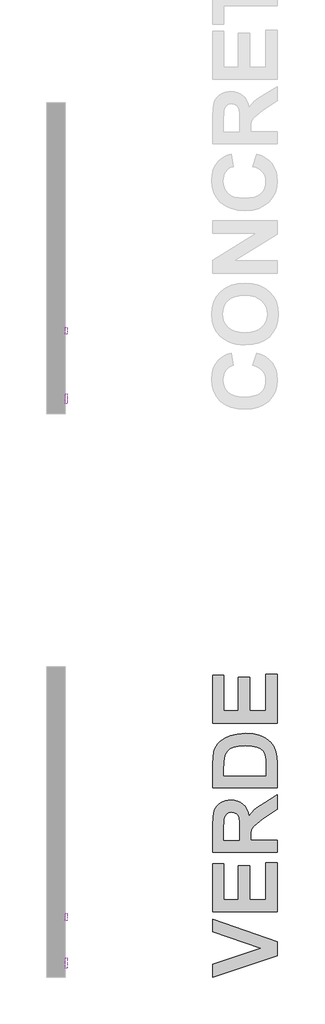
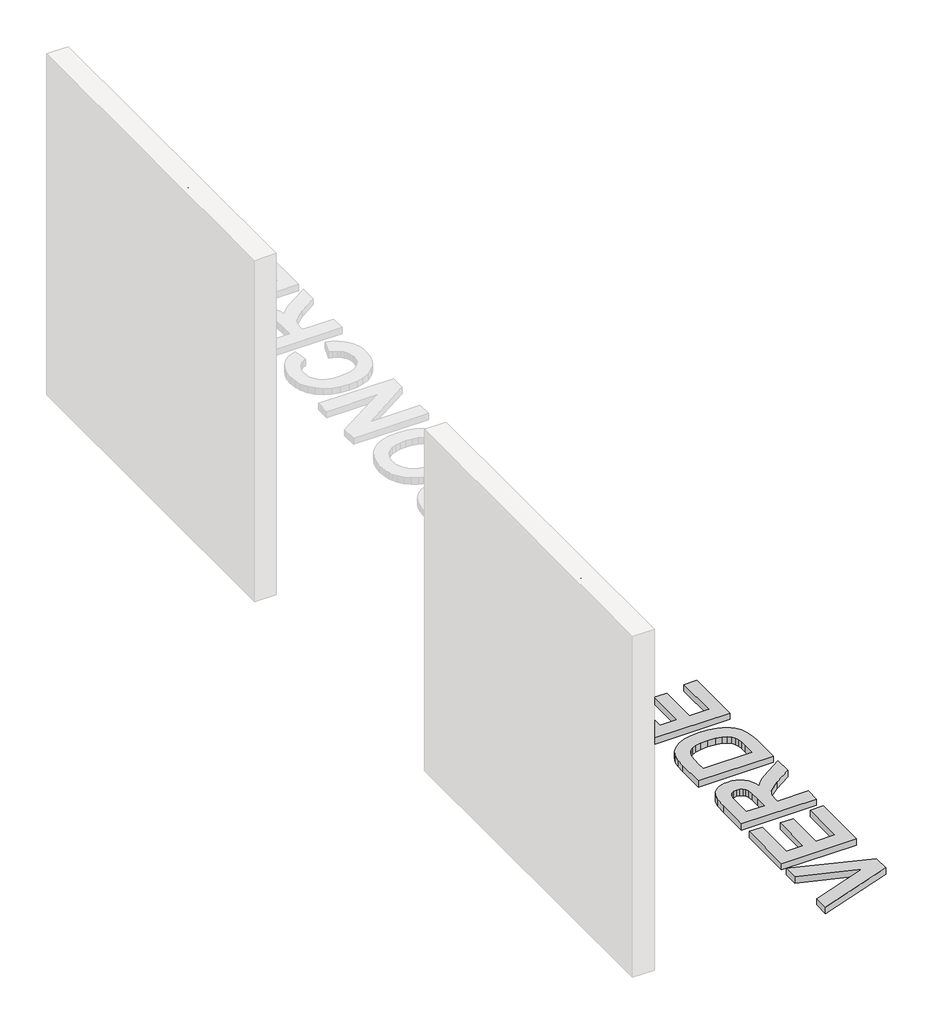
# One storey, part 4 of 6: 5 proxies.
"""IFC4 building model written with IfcOpenShell, lengths in millimetres."""

from ifc_helpers import new_model, si_unit, frame, origin, origin_with_axes, place, context, project, spatial, polyline, outline, extrude, element, save

model = new_model("IFC4")

# Units and contexts
model_context = context("Model", 3, world=origin())
ifc_project = project(units=[si_unit("LENGTHUNIT", "METRE", prefix="MILLI")], contexts=[model_context])

# Site, building, storey
site = spatial("IfcSite", under=ifc_project)
building = spatial("IfcBuilding", under=site)
storey = spatial("IfcBuildingStorey", under=building, Name="PORTOBELLO - SHOWROOM", Elevation=0.0)

# Proxies
placement = place(None, origin())
element("IfcBuildingElementProxy", 1, Name="10mm Arial", ObjectType="10mm Arial", at=placement, inside=storey, context=model_context, shape_type="SweptSolid", body=[
    extrude(outline(polyline([(621.7332889, 2518.4745677), (581.7567788, 2618.9308778), (595.1967343, 2618.9308778), (621.9540181, 2546.5562266), (627.3741462, 2530.2467915), (632.7206978, 2546.5562266), (659.551558, 2618.9308778), (672.9915136, 2618.9308778), (634.7072606, 2518.4745677), (621.7332889, 2518.4745677)])), frame((-21726.2609603, 0.0, 0.0), z_axis=(1.0, 0.0, 0.0), x_axis=(0.0, 1.0, 0.0)), (0.0, 0.0, 1.0), 20.0),
    extrude(outline(polyline([(734.7466378, 2540.4493855), (747.0584219, 2538.8797557), (742.6223782, 2529.602998), (735.5437155, 2522.6684224), (725.9818493, 2518.345809), (714.0961952, 2516.9049378), (699.3625213, 2519.391207), (688.0256244, 2526.8500144), (680.7967432, 2538.7969822), (678.3871162, 2554.7477324), (680.8212687, 2571.2349771), (688.1237263, 2583.5651553), (699.307339, 2591.253889), (713.3849566, 2593.8168003), (727.0241816, 2591.2600204), (737.9226857, 2583.5896808), (745.0687935, 2571.2840281), (747.4508294, 2554.8213088), (747.377253, 2551.4367944), (690.9441549, 2551.4367944), (693.1177244, 2542.0374095), (698.1669048, 2535.1273593), (705.454034, 2530.8783223), (714.3414498, 2529.4619766), (726.6532339, 2532.0862015), (734.7466378, 2540.4493855)]), holes=[polyline([(690.9441549, 2563.9938332), (734.8937906, 2563.9938332), (729.86607, 2575.3736496), (722.5452183, 2579.7882335), (713.3359057, 2581.2597615), (697.8725992, 2576.5631347), (693.0073598, 2571.0724959), (690.9441549, 2563.9938332)])]), frame((-21726.2609603, 0.0, 0.0), z_axis=(1.0, 0.0, 0.0), x_axis=(0.0, 1.0, 0.0)), (0.0, 0.0, 1.0), 20.0),
    extrude(outline(polyline([(760.0078682, 2518.4745677), (760.0078682, 2592.2471704), (770.9952771, 2592.2471704), (770.9952771, 2581.3333379), (778.7943754, 2591.3887791), (786.6425246, 2593.8168003), (799.2486143, 2589.9417766), (795.0547596, 2578.6845875), (786.2255917, 2581.2597615), (779.1254692, 2578.7826894), (774.6005206, 2571.9155588), (772.5649069, 2557.24933), (772.5649069, 2518.4745677), (760.0078682, 2518.4745677)])), frame((-21726.2609603, 0.0, 0.0), z_axis=(1.0, 0.0, 0.0), x_axis=(0.0, 1.0, 0.0)), (0.0, 0.0, 1.0), 20.0),
    extrude(outline(polyline([(852.6160291, 2518.4745677), (852.6160291, 2530.3203679), (844.3080274, 2520.2587953), (832.8239777, 2516.9049378), (817.2748321, 2521.7609802), (806.2874232, 2535.3113003), (802.387874, 2555.2872926), (805.9808548, 2575.2755477), (816.7475346, 2589.0343343), (832.7749268, 2593.8168003), (844.3509469, 2590.3954977), (852.6160291, 2581.5050162), (852.6160291, 2618.9308778), (865.1730679, 2618.9308778), (865.1730679, 2518.4745677), (852.6160291, 2518.4745677)]), holes=[polyline([(814.9449128, 2555.3363436), (816.3612585, 2543.977987), (820.6102955, 2535.8999115), (826.7845817, 2531.0714603), (833.9766747, 2529.4619766), (841.165702, 2530.9978839), (847.1836383, 2535.6056059), (851.2579314, 2543.3709817), (852.6160291, 2554.3798504), (851.2334059, 2566.415723), (847.0855364, 2574.7605129), (840.914316, 2579.6349494), (833.4616399, 2581.2597615), (826.1959705, 2579.6993287), (820.2424135, 2575.0180303), (816.269288, 2566.976743), (814.9449128, 2555.3363436)])]), frame((-21726.2609603, 0.0, 0.0), z_axis=(1.0, 0.0, 0.0), x_axis=(0.0, 1.0, 0.0)), (0.0, 0.0, 1.0), 20.0),
    extrude(outline(polyline([(935.6592581, 2540.4493855), (947.9710422, 2538.8797557), (943.5349985, 2529.602998), (936.4563358, 2522.6684224), (926.8944696, 2518.345809), (915.0088155, 2516.9049378), (900.2751416, 2519.391207), (888.9382447, 2526.8500144), (881.7093635, 2538.7969822), (879.2997365, 2554.7477324), (881.733889, 2571.2349771), (889.0363466, 2583.5651553), (900.2199593, 2591.253889), (914.2975769, 2593.8168003), (927.9368019, 2591.2600204), (938.835306, 2583.5896808), (945.9814138, 2571.2840281), (948.3634497, 2554.8213088), (948.2898733, 2551.4367944), (891.8567752, 2551.4367944), (894.0303447, 2542.0374095), (899.0795251, 2535.1273593), (906.3666543, 2530.8783223), (915.2540701, 2529.4619766), (927.5658542, 2532.0862015), (935.6592581, 2540.4493855)]), holes=[polyline([(891.8567752, 2563.9938332), (935.8064109, 2563.9938332), (930.7786903, 2575.3736496), (923.4578386, 2579.7882335), (914.248526, 2581.2597615), (898.7852195, 2576.5631347), (893.9199801, 2571.0724959), (891.8567752, 2563.9938332)])]), frame((-21726.2609603, 0.0, 0.0), z_axis=(1.0, 0.0, 0.0), x_axis=(0.0, 1.0, 0.0)), (0.0, 0.0, 1.0), 20.0),
])
element("IfcBuildingElementProxy", 2, Name="10mm Arial", ObjectType="10mm Arial", at=placement, inside=storey, context=model_context, shape_type="SweptSolid", body=[
    extrude(outline(polyline([(5562.6908177, 2554.1836467), (5575.2478565, 2550.9462851), (5569.4537151, 2536.3137787), (5560.3608984, 2525.6237411), (5548.4169963, 2519.0846386), (5534.0695985, 2516.9049378), (5519.5045372, 2518.5542754), (5507.9377141, 2523.5022883), (5499.071758, 2531.5772981), (5492.6092976, 2542.6076265), (5487.3485851, 2569.4630122), (5488.8354415, 2584.110847), (5493.2960107, 2596.7598562), (5500.4973007, 2607.0084355), (5510.2063197, 2614.4549802), (5521.7210262, 2618.9891258), (5534.3393786, 2620.5005077), (5548.1073623, 2618.5446017), (5559.4902444, 2612.6768839), (5568.1324056, 2603.2591048), (5573.6782266, 2590.6530151), (5561.1211879, 2587.6609082), (5550.820492, 2603.0996893), (5533.8488693, 2607.9434689), (5514.2039707, 2602.5723918), (5503.1061972, 2588.1514175), (5499.9056239, 2569.4875377), (5503.6948084, 2547.8560763), (5515.4915577, 2534.0359761), (5532.8187997, 2529.4619766), (5543.3003709, 2531.0193437), (5552.0345026, 2535.691445), (5558.6287873, 2543.4292297), (5562.6908177, 2554.1836467)])), frame((-21726.2609603, 0.0, 0.0), z_axis=(1.0, 0.0, 0.0), x_axis=(0.0, 1.0, 0.0)), (0.0, 0.0, 1.0), 20.0),
    extrude(outline(polyline([(5587.8048952, 2555.360869), (5590.5210906, 2573.1479635), (5598.6696768, 2585.64982), (5608.7373808, 2591.7750552), (5620.7916475, 2593.8168003), (5633.9832827, 2591.3305311), (5644.5200362, 2583.8717237), (5651.4270206, 2572.0289891), (5653.7293488, 2556.3909386), (5649.6581214, 2534.0482388), (5637.8000584, 2521.4053609), (5620.7916475, 2516.9049378), (5607.4405967, 2519.3820099), (5596.916106, 2526.8132262), (5590.0826979, 2538.9042811), (5587.8048952, 2555.360869)]), holes=[polyline([(5600.361934, 2555.3853945), (5601.8150679, 2544.0209065), (5606.1744695, 2535.924437), (5612.7350318, 2531.0775917), (5620.7916475, 2529.4619766), (5628.811475, 2531.0867887), (5635.3597745, 2535.9612252), (5639.7191761, 2544.1649937), (5641.17231, 2555.777802), (5639.7099791, 2566.8111961), (5635.3229863, 2574.7973011), (5628.7654897, 2579.6441464), (5620.7916475, 2581.2597615), (5612.7350318, 2579.6502778), (5606.1744695, 2574.8218266), (5601.8150679, 2566.7437511), (5600.361934, 2555.3853945)])]), frame((-21726.2609603, 0.0, 0.0), z_axis=(1.0, 0.0, 0.0), x_axis=(0.0, 1.0, 0.0)), (0.0, 0.0, 1.0), 20.0),
    extrude(outline(polyline([(5667.8560174, 2518.4745677), (5667.8560174, 2592.2471704), (5680.4130562, 2592.2471704), (5680.4130562, 2581.9464746), (5690.0147762, 2590.8492188), (5703.123638, 2593.8168003), (5714.981701, 2591.4255673), (5723.0751049, 2585.1470479), (5726.839764, 2575.9132098), (5727.5019515, 2563.773104), (5727.5019515, 2518.4745677), (5714.9449128, 2518.4745677), (5714.9449128, 2562.0808468), (5713.4979103, 2573.1908831), (5708.3843505, 2579.0647323), (5699.7636491, 2581.2597615), (5686.1397526, 2576.3301428), (5681.8447303, 2569.1871007), (5680.4130562, 2557.6172119), (5680.4130562, 2518.4745677), (5667.8560174, 2518.4745677)])), frame((-21726.2609603, 0.0, 0.0), z_axis=(1.0, 0.0, 0.0), x_axis=(0.0, 1.0, 0.0)), (0.0, 0.0, 1.0), 20.0),
    extrude(outline(polyline([(5791.8567752, 2545.158275), (5804.413814, 2543.5886452), (5800.9128037, 2532.420361), (5794.3338473, 2523.9805349), (5785.296213, 2518.6738371), (5774.4191687, 2516.9049378), (5761.0619866, 2519.3728129), (5750.6172036, 2526.776438), (5743.875766, 2538.7908508), (5741.6286202, 2555.0910889), (5745.4668556, 2575.949998), (5757.1655031, 2589.3531654), (5774.2474904, 2593.8168003), (5784.8578203, 2592.2839586), (5793.340566, 2587.6854337), (5799.4259473, 2580.2664801), (5802.8441842, 2570.2723526), (5790.2871454, 2568.7027227), (5784.4623471, 2578.1082391), (5774.3455923, 2581.2597615), (5766.2307286, 2579.7085258), (5759.789728, 2575.0548185), (5755.5866762, 2567.0472538), (5754.1856589, 2555.4344454), (5755.5560194, 2543.6652873), (5759.6671007, 2535.6301314), (5765.9916053, 2531.0040153), (5774.0022357, 2529.4619766), (5785.8357733, 2533.3124748), (5791.8567752, 2545.158275)])), frame((-21726.2609603, 0.0, 0.0), z_axis=(1.0, 0.0, 0.0), x_axis=(0.0, 1.0, 0.0)), (0.0, 0.0, 1.0), 20.0),
    extrude(outline(polyline([(5815.4012229, 2518.4745677), (5815.4012229, 2592.2471704), (5826.3886319, 2592.2471704), (5826.3886319, 2581.3333379), (5834.1877302, 2591.3887791), (5842.0358794, 2593.8168003), (5854.6419691, 2589.9417766), (5850.4481143, 2578.6845875), (5841.6189465, 2581.2597615), (5834.5188239, 2578.7826894), (5829.9938754, 2571.9155588), (5827.9582617, 2557.24933), (5827.9582617, 2518.4745677), (5815.4012229, 2518.4745677)])), frame((-21726.2609603, 0.0, 0.0), z_axis=(1.0, 0.0, 0.0), x_axis=(0.0, 1.0, 0.0)), (0.0, 0.0, 1.0), 20.0),
    extrude(outline(polyline([(5914.1407504, 2540.4493855), (5926.4525345, 2538.8797557), (5922.0164908, 2529.602998), (5914.9378281, 2522.6684224), (5905.3759619, 2518.345809), (5893.4903078, 2516.9049378), (5878.7566339, 2519.391207), (5867.419737, 2526.8500144), (5860.1908558, 2538.7969822), (5857.7812288, 2554.7477324), (5860.2153813, 2571.2349771), (5867.5178389, 2583.5651553), (5878.7014516, 2591.253889), (5892.7790692, 2593.8168003), (5906.4182942, 2591.2600204), (5917.3167983, 2583.5896808), (5924.4629061, 2571.2840281), (5926.844942, 2554.8213088), (5926.7713656, 2551.4367944), (5870.3382675, 2551.4367944), (5872.511837, 2542.0374095), (5877.5610174, 2535.1273593), (5884.8481466, 2530.8783223), (5893.7355624, 2529.4619766), (5906.0473465, 2532.0862015), (5914.1407504, 2540.4493855)]), holes=[polyline([(5870.3382675, 2563.9938332), (5914.2879032, 2563.9938332), (5909.2601826, 2575.3736496), (5901.9393309, 2579.7882335), (5892.7300183, 2581.2597615), (5877.2667118, 2576.5631347), (5872.4014724, 2571.0724959), (5870.3382675, 2563.9938332)])]), frame((-21726.2609603, 0.0, 0.0), z_axis=(1.0, 0.0, 0.0), x_axis=(0.0, 1.0, 0.0)), (0.0, 0.0, 1.0), 20.0),
    extrude(outline(polyline([(5966.0856882, 2528.9469418), (5967.655318, 2518.1066857), (5958.2620644, 2516.9049378), (5947.7406393, 2518.9896025), (5942.4921895, 2524.4587815), (5940.9716106, 2538.7080774), (5940.9716106, 2579.6901317), (5931.5538315, 2579.6901317), (5931.5538315, 2592.2471704), (5940.9716106, 2592.2471704), (5940.9716106, 2610.1752863), (5953.5286494, 2617.5574517), (5953.5286494, 2592.2471704), (5966.0856882, 2592.2471704), (5966.0856882, 2579.6901317), (5953.5286494, 2579.6901317), (5953.5286494, 2539.0759594), (5954.190837, 2532.6012363), (5956.3368153, 2530.3081052), (5960.6165092, 2529.4619766), (5966.0856882, 2528.9469418)])), frame((-21726.2609603, 0.0, 0.0), z_axis=(1.0, 0.0, 0.0), x_axis=(0.0, 1.0, 0.0)), (0.0, 0.0, 1.0), 20.0),
    extrude(outline(polyline([(5975.5034672, 2555.360869), (5978.2196626, 2573.1479635), (5986.3682488, 2585.64982), (5996.4359528, 2591.7750552), (6008.4902195, 2593.8168003), (6021.6818547, 2591.3305311), (6032.2186082, 2583.8717237), (6039.1255926, 2572.0289891), (6041.4279208, 2556.3909386), (6037.3566934, 2534.0482388), (6025.4986304, 2521.4053609), (6008.4902195, 2516.9049378), (5995.1391687, 2519.3820099), (5984.614678, 2526.8132262), (5977.7812699, 2538.9042811), (5975.5034672, 2555.360869)]), holes=[polyline([(5988.060506, 2555.3853945), (5989.5136399, 2544.0209065), (5993.8730415, 2535.924437), (6000.4336038, 2531.0775917), (6008.4902195, 2529.4619766), (6016.510047, 2531.0867887), (6023.0583465, 2535.9612252), (6027.4177481, 2544.1649937), (6028.870882, 2555.777802), (6027.4085511, 2566.8111961), (6023.0215583, 2574.7973011), (6016.4640617, 2579.6441464), (6008.4902195, 2581.2597615), (6000.4336038, 2579.6502778), (5993.8730415, 2574.8218266), (5989.5136399, 2566.7437511), (5988.060506, 2555.3853945)])]), frame((-21726.2609603, 0.0, 0.0), z_axis=(1.0, 0.0, 0.0), x_axis=(0.0, 1.0, 0.0)), (0.0, 0.0, 1.0), 20.0),
])
element("IfcBuildingElementProxy", 3, Name="10mm Arial Narrow", ObjectType="10mm Arial Narrow", at=placement, inside=storey, context=model_context, shape_type="SweptSolid", body=[
    extrude(outline(polyline([(994.3713743, 2518.4745677), (994.3713743, 2619.1931714), (1025.6682589, 2619.1931714), (1041.9639605, 2617.3148507), (1053.4369466, 2607.8344075), (1057.726625, 2590.8152987), (1055.9403166, 2578.7394731), (1050.5813914, 2569.1130794), (1040.8376026, 2562.811821), (1025.8967034, 2560.7114015), (1004.1183359, 2560.7114015), (1004.1183359, 2518.4745677), (994.3713743, 2518.4745677)]), holes=[polyline([(1004.1183359, 2572.0828568), (1027.0896909, 2572.0828568), (1042.9538863, 2576.613671), (1047.9796634, 2590.2822617), (1045.5048489, 2600.4480381), (1039.52722, 2606.247988), (1026.8612464, 2607.8217162), (1004.1183359, 2607.8217162), (1004.1183359, 2572.0828568)])]), frame((-21726.2609603, 0.0, 0.0), z_axis=(1.0, 0.0, 0.0), x_axis=(0.0, 1.0, 0.0)), (0.0, 0.0, 1.0), 20.0),
    extrude(outline(polyline([(1065.8490931, 2555.0256739), (1067.8035619, 2571.6164494), (1073.6669685, 2583.5685342), (1082.5255353, 2590.7930888), (1093.4654844, 2593.2012737), (1104.27852, 2590.7930888), (1113.1624694, 2583.5685342), (1119.1020242, 2571.8068198), (1121.0818758, 2555.7871552), (1119.1369254, 2538.6252687), (1113.3020743, 2526.4828135), (1104.4530261, 2519.2582589), (1093.4654844, 2516.8500741), (1082.6048562, 2519.2646046), (1073.7304253, 2526.5081962), (1067.8194261, 2538.4666267), (1065.8490931, 2555.0256739)]), holes=[polyline([(1075.5960547, 2555.0510566), (1076.9000916, 2542.4993052), (1080.8122022, 2533.6280471), (1086.6533989, 2528.3547886), (1093.7446942, 2526.5970357), (1100.4647674, 2528.3706528), (1106.1568407, 2533.6915039), (1110.0403958, 2542.5786262), (1111.3349141, 2555.0510566), (1110.0308772, 2567.5647339), (1106.1187667, 2576.4233006), (1100.2775699, 2581.6965592), (1093.1862746, 2583.454312), (1086.4186088, 2581.6870407), (1080.736054, 2576.3852265), (1076.8810545, 2567.5171413), (1075.5960547, 2555.0510566)])]), frame((-21726.2609603, 0.0, 0.0), z_axis=(1.0, 0.0, 0.0), x_axis=(0.0, 1.0, 0.0)), (0.0, 0.0, 1.0), 20.0),
    extrude(outline(polyline([(1192.5595946, 2526.5970357), (1194.1840882, 2516.8500741), (1186.8231015, 2516.8500741), (1178.5483372, 2518.9695306), (1174.233276, 2524.7694804), (1173.0656712, 2539.4153056), (1173.0656712, 2581.8298184), (1164.9432032, 2581.8298184), (1164.9432032, 2585.0788056), (1163.3187096, 2580.2053248), (1155.7546612, 2581.8298184), (1149.6755015, 2579.5073002), (1145.8046379, 2573.0220171), (1143.8247863, 2557.6147106), (1143.8247863, 2518.4745677), (1134.0778246, 2518.4745677), (1134.0778246, 2591.5767801), (1143.8247863, 2591.5767801), (1143.8247863, 2581.8805838), (1150.0689336, 2590.967595), (1156.4653772, 2593.2012737), (1164.9432032, 2591.5767801), (1173.0656712, 2591.5767801), (1173.0656712, 2607.8217162), (1182.8126329, 2615.9441842), (1182.8126329, 2591.5767801), (1192.5595946, 2591.5767801), (1192.5595946, 2581.8298184), (1182.8126329, 2581.8298184), (1182.8126329, 2537.1816269), (1183.6756451, 2529.1860724), (1188.2952988, 2526.5970357), (1192.5595946, 2526.5970357)])), frame((-21726.2609603, 0.0, 0.0), z_axis=(1.0, 0.0, 0.0), x_axis=(0.0, 1.0, 0.0)), (0.0, 0.0, 1.0), 20.0),
    extrude(outline(polyline([(1199.057569, 2555.0256739), (1201.0120379, 2571.6164494), (1206.8754445, 2583.5685342), (1215.7340112, 2590.7930888), (1226.6739603, 2593.2012737), (1237.4869959, 2590.7930888), (1246.3709453, 2583.5685342), (1252.3105001, 2571.8068198), (1254.2903517, 2555.7871552), (1252.3454013, 2538.6252687), (1246.5105503, 2526.4828135), (1237.6615021, 2519.2582589), (1226.6739603, 2516.8500741), (1215.8133322, 2519.2646046), (1206.9389013, 2526.5081962), (1201.0279021, 2538.4666267), (1199.057569, 2555.0256739)]), holes=[polyline([(1208.8045306, 2555.0510566), (1210.1085675, 2542.4993052), (1214.0206781, 2533.6280471), (1219.8618748, 2528.3547886), (1226.9531702, 2526.5970357), (1233.6732433, 2528.3706528), (1239.3653167, 2533.6915039), (1243.2488717, 2542.5786262), (1244.54339, 2555.0510566), (1243.2393532, 2567.5647339), (1239.3272426, 2576.4233006), (1233.4860458, 2581.6965592), (1226.3947505, 2583.454312), (1219.6270847, 2581.6870407), (1213.94453, 2576.3852265), (1210.0895305, 2567.5171413), (1208.8045306, 2555.0510566)])]), frame((-21726.2609603, 0.0, 0.0), z_axis=(1.0, 0.0, 0.0), x_axis=(0.0, 1.0, 0.0)), (0.0, 0.0, 1.0), 20.0),
    extrude(outline(polyline([(1277.0332622, 2518.4745677), (1267.2863006, 2518.4745677), (1267.2863006, 2619.1931714), (1277.0332622, 2619.1931714), (1277.0332622, 2583.7842873), (1284.4323229, 2590.8660641), (1293.6335563, 2593.2012737), (1306.5152829, 2589.0004347), (1315.7926644, 2576.2710043), (1319.270096, 2555.5840935), (1317.337837, 2539.1297501), (1311.54106, 2526.927011), (1303.1679377, 2519.3693083), (1293.5066427, 2516.8500741), (1284.1658045, 2519.4644935), (1277.0332622, 2527.2316035), (1277.0332622, 2518.4745677)]), holes=[polyline([(1277.0332622, 2555.5840935), (1279.1146447, 2538.3365403), (1285.003434, 2529.6048872), (1293.4558773, 2526.5970357), (1299.3986049, 2528.3865169), (1304.6369622, 2533.7549607), (1309.5231344, 2555.1779701), (1304.8146412, 2576.613671), (1299.5699382, 2581.7441518), (1293.2528156, 2583.454312), (1287.2751868, 2581.6648308), (1281.9828912, 2576.2963871), (1277.0332622, 2555.5840935)])]), frame((-21726.2609603, 0.0, 0.0), z_axis=(1.0, 0.0, 0.0), x_axis=(0.0, 1.0, 0.0)), (0.0, 0.0, 1.0), 20.0),
    extrude(outline(polyline([(1371.2538915, 2541.2174782), (1381.0008532, 2539.5929846), (1377.3013228, 2529.706418), (1371.4823359, 2522.5865671), (1363.7786827, 2518.2841973), (1354.4251531, 2516.8500741), (1342.8315991, 2519.2646046), (1333.6874768, 2526.5081962), (1327.7479221, 2538.3143304), (1325.7680705, 2554.4164888), (1327.7574406, 2571.0834124), (1333.7255509, 2583.2639417), (1342.7395867, 2590.7169407), (1353.8667334, 2593.2012737), (1364.5496826, 2590.8026073), (1373.2971999, 2583.6066083), (1379.132051, 2571.8671037), (1381.0770013, 2555.8379207), (1381.0008532, 2552.5889335), (1335.5150321, 2552.5889335), (1341.5180437, 2533.1457756), (1347.4480799, 2528.2342207), (1354.5520666, 2526.5970357), (1364.7305344, 2530.2521463), (1371.2538915, 2541.2174782)]), holes=[polyline([(1336.1749827, 2562.3358951), (1371.2538915, 2562.3358951), (1366.9895958, 2576.6009796), (1361.1642633, 2581.7409789), (1353.9428815, 2583.454312), (1341.7337967, 2577.7432017), (1336.1749827, 2562.3358951)])]), frame((-21726.2609603, 0.0, 0.0), z_axis=(1.0, 0.0, 0.0), x_axis=(0.0, 1.0, 0.0)), (0.0, 0.0, 1.0), 20.0),
    extrude(outline(polyline([(-21706.2609603, 1403.7437637), (-21706.2609603, 1393.9968021), (-21726.2609603, 1393.9968021), (-21726.2609603, 1403.7437637), (-21706.2609603, 1403.7437637)])), frame((0.0, 0.0, 2518.4745677), z_axis=(0.0, 0.0, 1.0), x_axis=(1.0, 0.0, 0.0)), (0.0, 0.0, 1.0), 100.7186038),
    extrude(outline(polyline([(-21706.2609603, 1429.7356615), (-21706.2609603, 1419.9886998), (-21726.2609603, 1419.9886998), (-21726.2609603, 1429.7356615), (-21706.2609603, 1429.7356615)])), frame((0.0, 0.0, 2518.4745677), z_axis=(0.0, 0.0, 1.0), x_axis=(1.0, 0.0, 0.0)), (0.0, 0.0, 1.0), 100.7186038),
    extrude(outline(polyline([(1441.1071167, 2555.0256739), (1443.0615856, 2571.6164494), (1448.9249922, 2583.5685342), (1457.7835589, 2590.7930888), (1468.7235081, 2593.2012737), (1479.5365437, 2590.7930888), (1488.4204931, 2583.5685342), (1494.3600478, 2571.8068198), (1496.3398994, 2555.7871552), (1494.3949491, 2538.6252687), (1488.560098, 2526.4828135), (1479.7110498, 2519.2582589), (1468.7235081, 2516.8500741), (1457.8628799, 2519.2646046), (1448.988449, 2526.5081962), (1443.0774498, 2538.4666267), (1441.1071167, 2555.0256739)]), holes=[polyline([(1450.8540784, 2555.0510566), (1452.1581152, 2542.4993052), (1456.0702258, 2533.6280471), (1461.9114226, 2528.3547886), (1469.0027179, 2526.5970357), (1475.7227911, 2528.3706528), (1481.4148644, 2533.6915039), (1485.2984194, 2542.5786262), (1486.5929378, 2555.0510566), (1485.2889009, 2567.5647339), (1481.3767903, 2576.4233006), (1475.5355936, 2581.6965592), (1468.4442982, 2583.454312), (1461.6766325, 2581.6870407), (1455.9940777, 2576.3852265), (1452.1390782, 2567.5171413), (1450.8540784, 2555.0510566)])]), frame((-21726.2609603, 0.0, 0.0), z_axis=(1.0, 0.0, 0.0), x_axis=(0.0, 1.0, 0.0)), (0.0, 0.0, 1.0), 20.0),
])
element("IfcBuildingElementProxy", 4, Name="10mm Arial Narrow", ObjectType="10mm Arial Narrow", at=placement, inside=storey, context=model_context, shape_type="SweptSolid", body=[
    extrude(outline(polyline([(6089.3713743, 2518.4745677), (6089.3713743, 2619.1931714), (6120.6682589, 2619.1931714), (6136.9639605, 2617.3148507), (6148.4369466, 2607.8344075), (6152.726625, 2590.8152987), (6150.9403166, 2578.7394731), (6145.5813914, 2569.1130794), (6135.8376026, 2562.811821), (6120.8967034, 2560.7114015), (6099.1183359, 2560.7114015), (6099.1183359, 2518.4745677), (6089.3713743, 2518.4745677)]), holes=[polyline([(6099.1183359, 2572.0828568), (6122.0896909, 2572.0828568), (6137.9538863, 2576.613671), (6142.9796634, 2590.2822617), (6140.5048489, 2600.4480381), (6134.52722, 2606.247988), (6121.8612464, 2607.8217162), (6099.1183359, 2607.8217162), (6099.1183359, 2572.0828568)])]), frame((-21726.2609603, 0.0, 0.0), z_axis=(1.0, 0.0, 0.0), x_axis=(0.0, 1.0, 0.0)), (0.0, 0.0, 1.0), 20.0),
    extrude(outline(polyline([(6160.8490931, 2555.0256739), (6162.8035619, 2571.6164494), (6168.6669685, 2583.5685342), (6177.5255353, 2590.7930888), (6188.4654844, 2593.2012737), (6199.27852, 2590.7930888), (6208.1624694, 2583.5685342), (6214.1020242, 2571.8068198), (6216.0818758, 2555.7871552), (6214.1369254, 2538.6252687), (6208.3020743, 2526.4828135), (6199.4530261, 2519.2582589), (6188.4654844, 2516.8500741), (6177.6048562, 2519.2646046), (6168.7304253, 2526.5081962), (6162.8194261, 2538.4666267), (6160.8490931, 2555.0256739)]), holes=[polyline([(6170.5960547, 2555.0510566), (6171.9000916, 2542.4993052), (6175.8122022, 2533.6280471), (6181.6533989, 2528.3547886), (6188.7446942, 2526.5970357), (6195.4647674, 2528.3706528), (6201.1568407, 2533.6915039), (6205.0403958, 2542.5786262), (6206.3349141, 2555.0510566), (6205.0308772, 2567.5647339), (6201.1187667, 2576.4233006), (6195.2775699, 2581.6965592), (6188.1862746, 2583.454312), (6181.4186088, 2581.6870407), (6175.736054, 2576.3852265), (6171.8810545, 2567.5171413), (6170.5960547, 2555.0510566)])]), frame((-21726.2609603, 0.0, 0.0), z_axis=(1.0, 0.0, 0.0), x_axis=(0.0, 1.0, 0.0)), (0.0, 0.0, 1.0), 20.0),
    extrude(outline(polyline([(6287.5595946, 2526.5970357), (6289.1840882, 2516.8500741), (6281.8231015, 2516.8500741), (6273.5483372, 2518.9695306), (6269.233276, 2524.7694804), (6268.0656712, 2539.4153056), (6268.0656712, 2581.8298184), (6259.9432032, 2581.8298184), (6259.9432032, 2585.0788056), (6258.3187096, 2580.2053248), (6250.7546612, 2581.8298184), (6244.6755015, 2579.5073002), (6240.8046379, 2573.0220171), (6238.8247863, 2557.6147106), (6238.8247863, 2518.4745677), (6229.0778246, 2518.4745677), (6229.0778246, 2591.5767801), (6238.8247863, 2591.5767801), (6238.8247863, 2581.8805838), (6245.0689336, 2590.967595), (6251.4653772, 2593.2012737), (6259.9432032, 2591.5767801), (6268.0656712, 2591.5767801), (6268.0656712, 2607.8217162), (6277.8126329, 2615.9441842), (6277.8126329, 2591.5767801), (6287.5595946, 2591.5767801), (6287.5595946, 2581.8298184), (6277.8126329, 2581.8298184), (6277.8126329, 2537.1816269), (6278.6756451, 2529.1860724), (6283.2952988, 2526.5970357), (6287.5595946, 2526.5970357)])), frame((-21726.2609603, 0.0, 0.0), z_axis=(1.0, 0.0, 0.0), x_axis=(0.0, 1.0, 0.0)), (0.0, 0.0, 1.0), 20.0),
    extrude(outline(polyline([(6294.057569, 2555.0256739), (6296.0120379, 2571.6164494), (6301.8754445, 2583.5685342), (6310.7340112, 2590.7930888), (6321.6739603, 2593.2012737), (6332.4869959, 2590.7930888), (6341.3709453, 2583.5685342), (6347.3105001, 2571.8068198), (6349.2903517, 2555.7871552), (6347.3454013, 2538.6252687), (6341.5105503, 2526.4828135), (6332.6615021, 2519.2582589), (6321.6739603, 2516.8500741), (6310.8133322, 2519.2646046), (6301.9389013, 2526.5081962), (6296.0279021, 2538.4666267), (6294.057569, 2555.0256739)]), holes=[polyline([(6303.8045306, 2555.0510566), (6305.1085675, 2542.4993052), (6309.0206781, 2533.6280471), (6314.8618748, 2528.3547886), (6321.9531702, 2526.5970357), (6328.6732433, 2528.3706528), (6334.3653167, 2533.6915039), (6338.2488717, 2542.5786262), (6339.54339, 2555.0510566), (6338.2393532, 2567.5647339), (6334.3272426, 2576.4233006), (6328.4860458, 2581.6965592), (6321.3947505, 2583.454312), (6314.6270847, 2581.6870407), (6308.94453, 2576.3852265), (6305.0895305, 2567.5171413), (6303.8045306, 2555.0510566)])]), frame((-21726.2609603, 0.0, 0.0), z_axis=(1.0, 0.0, 0.0), x_axis=(0.0, 1.0, 0.0)), (0.0, 0.0, 1.0), 20.0),
    extrude(outline(polyline([(6372.0332622, 2518.4745677), (6362.2863006, 2518.4745677), (6362.2863006, 2619.1931714), (6372.0332622, 2619.1931714), (6372.0332622, 2583.7842873), (6379.4323229, 2590.8660641), (6388.6335563, 2593.2012737), (6401.5152829, 2589.0004347), (6410.7926644, 2576.2710043), (6414.270096, 2555.5840935), (6412.337837, 2539.1297501), (6406.54106, 2526.927011), (6398.1679377, 2519.3693083), (6388.5066427, 2516.8500741), (6379.1658045, 2519.4644935), (6372.0332622, 2527.2316035), (6372.0332622, 2518.4745677)]), holes=[polyline([(6372.0332622, 2555.5840935), (6374.1146447, 2538.3365403), (6380.003434, 2529.6048872), (6388.4558773, 2526.5970357), (6394.3986049, 2528.3865169), (6399.6369622, 2533.7549607), (6404.5231344, 2555.1779701), (6399.8146412, 2576.613671), (6394.5699382, 2581.7441518), (6388.2528156, 2583.454312), (6382.2751868, 2581.6648308), (6376.9828912, 2576.2963871), (6372.0332622, 2555.5840935)])]), frame((-21726.2609603, 0.0, 0.0), z_axis=(1.0, 0.0, 0.0), x_axis=(0.0, 1.0, 0.0)), (0.0, 0.0, 1.0), 20.0),
    extrude(outline(polyline([(6466.2538915, 2541.2174782), (6476.0008532, 2539.5929846), (6472.3013228, 2529.706418), (6466.4823359, 2522.5865671), (6458.7786827, 2518.2841973), (6449.4251531, 2516.8500741), (6437.8315991, 2519.2646046), (6428.6874768, 2526.5081962), (6422.7479221, 2538.3143304), (6420.7680705, 2554.4164888), (6422.7574406, 2571.0834124), (6428.7255509, 2583.2639417), (6437.7395867, 2590.7169407), (6448.8667334, 2593.2012737), (6459.5496826, 2590.8026073), (6468.2971999, 2583.6066083), (6474.132051, 2571.8671037), (6476.0770013, 2555.8379207), (6476.0008532, 2552.5889335), (6430.5150321, 2552.5889335), (6436.5180437, 2533.1457756), (6442.4480799, 2528.2342207), (6449.5520666, 2526.5970357), (6459.7305344, 2530.2521463), (6466.2538915, 2541.2174782)]), holes=[polyline([(6431.1749827, 2562.3358951), (6466.2538915, 2562.3358951), (6461.9895958, 2576.6009796), (6456.1642633, 2581.7409789), (6448.9428815, 2583.454312), (6436.7337967, 2577.7432017), (6431.1749827, 2562.3358951)])]), frame((-21726.2609603, 0.0, 0.0), z_axis=(1.0, 0.0, 0.0), x_axis=(0.0, 1.0, 0.0)), (0.0, 0.0, 1.0), 20.0),
    extrude(outline(polyline([(-21706.2609603, 6498.7437637), (-21706.2609603, 6488.9968021), (-21726.2609603, 6488.9968021), (-21726.2609603, 6498.7437637), (-21706.2609603, 6498.7437637)])), frame((0.0, 0.0, 2518.4745677), z_axis=(0.0, 0.0, 1.0), x_axis=(1.0, 0.0, 0.0)), (0.0, 0.0, 1.0), 100.7186038),
    extrude(outline(polyline([(-21706.2609603, 6524.7356615), (-21706.2609603, 6514.9886998), (-21726.2609603, 6514.9886998), (-21726.2609603, 6524.7356615), (-21706.2609603, 6524.7356615)])), frame((0.0, 0.0, 2518.4745677), z_axis=(0.0, 0.0, 1.0), x_axis=(1.0, 0.0, 0.0)), (0.0, 0.0, 1.0), 100.7186038),
    extrude(outline(polyline([(6536.1071167, 2555.0256739), (6538.0615856, 2571.6164494), (6543.9249922, 2583.5685342), (6552.7835589, 2590.7930888), (6563.7235081, 2593.2012737), (6574.5365437, 2590.7930888), (6583.4204931, 2583.5685342), (6589.3600478, 2571.8068198), (6591.3398994, 2555.7871552), (6589.3949491, 2538.6252687), (6583.560098, 2526.4828135), (6574.7110498, 2519.2582589), (6563.7235081, 2516.8500741), (6552.8628799, 2519.2646046), (6543.988449, 2526.5081962), (6538.0774498, 2538.4666267), (6536.1071167, 2555.0256739)]), holes=[polyline([(6545.8540784, 2555.0510566), (6547.1581152, 2542.4993052), (6551.0702258, 2533.6280471), (6556.9114226, 2528.3547886), (6564.0027179, 2526.5970357), (6570.7227911, 2528.3706528), (6576.4148644, 2533.6915039), (6580.2984194, 2542.5786262), (6581.5929378, 2555.0510566), (6580.2889009, 2567.5647339), (6576.3767903, 2576.4233006), (6570.5355936, 2581.6965592), (6563.4442982, 2583.454312), (6556.6766325, 2581.6870407), (6550.9940777, 2576.3852265), (6547.1390782, 2567.5171413), (6545.8540784, 2555.0510566)])]), frame((-21726.2609603, 0.0, 0.0), z_axis=(1.0, 0.0, 0.0), x_axis=(0.0, 1.0, 0.0)), (0.0, 0.0, 1.0), 20.0),
])
element("IfcBuildingElementProxy", 5, Name="550mm Arial", ObjectType="550mm Arial", at=placement, inside=storey, context=model_context, shape_type="SweptSolid", body=[
    extrude(outline(polyline([(-19883.4014648, 691.5621751), (-20444.5441347, 502.4270341), (-20444.5441347, 615.1565883), (-20025.9138889, 756.2772896), (-20444.5441347, 897.8155077), (-20444.5441347, 1010.127545), (-19883.4014648, 810.9719992), (-19883.4014648, 691.5621751)])), origin_with_axes(), (0.0, 0.0, 1.0), 50.0),
    extrude(outline(polyline([(-19883.4014648, 1072.4767306), (-20444.5441347, 1072.4767306), (-20444.5441347, 1491.1069764), (-20346.5668432, 1491.1069764), (-20346.5668432, 1179.3610487), (-20221.8684721, 1179.3610487), (-20221.8684721, 1473.2929234), (-20123.8911805, 1473.2929234), (-20123.8911805, 1179.3610487), (-19981.3787564, 1179.3610487), (-19981.3787564, 1500.0140029), (-19883.4014648, 1500.0140029), (-19883.4014648, 1072.4767306)])), origin_with_axes(), (0.0, 0.0, 1.0), 50.0),
    extrude(outline(polyline([(-19883.4014648, 1589.084268), (-20444.5441347, 1589.084268), (-20444.5441347, 1825.1204705), (-20440.7516899, 1902.0131602), (-20429.3743552, 1954.5506994), (-20420.3107599, 1973.7216822), (-20408.2897534, 1990.8746669), (-20393.3113358, 2006.0096533), (-20375.375507, 2019.1266416), (-20355.256413, 2029.7211321), (-20333.7281995, 2037.2886253), (-20310.7908666, 2041.8291213), (-20286.4444142, 2043.3426199), (-20256.0961569, 2041.1550055), (-20228.5139489, 2034.5921622), (-20203.6977901, 2023.6540901), (-20181.6476805, 2008.3407892), (-20162.8942145, 1988.6696559), (-20147.9679865, 1964.6580869), (-20136.8689964, 1936.3060821), (-20129.5972443, 1903.6136416), (-20107.2600919, 1934.614269), (-20082.8353552, 1959.7000741), (-20047.4508006, 1985.655706), (-19992.2341949, 2019.2658139), (-19883.4014648, 2087.8777524), (-19883.4014648, 1963.040209), (-20011.5791431, 1881.7635922), (-20087.6367991, 1817.9530976), (-20100.8407701, 1800.2434238), (-20109.1389178, 1781.4899578), (-20113.5228449, 1756.5955146), (-20114.984154, 1720.462909), (-20114.984154, 1695.9685861), (-19883.4014648, 1695.9685861), (-19883.4014648, 1589.084268)]), holes=[polyline([(-20212.9614455, 1695.9685861), (-20212.9614455, 1784.0646452), (-20214.5793234, 1853.5986001), (-20219.432957, 1891.0185494), (-20228.2356043, 1910.0503599), (-20241.7005233, 1924.4198988), (-20259.4623867, 1933.4487011), (-20281.1558672, 1936.4583018), (-20305.1804837, 1932.4918916), (-20324.0905185, 1920.5926608), (-20337.4336617, 1901.4564711), (-20344.7576034, 1875.7791837), (-20346.5668432, 1788.9356753), (-20346.5668432, 1695.9685861), (-20212.9614455, 1695.9685861)])]), origin_with_axes(), (0.0, 0.0, 1.0), 50.0),
    extrude(outline(polyline([(-20444.5441347, 2150.226938), (-20444.5441347, 2358.0111657), (-20441.8650682, 2419.9428344), (-20433.8278685, 2465.1738284), (-20425.116553, 2489.0592725), (-20413.5956969, 2511.17027), (-20399.2653003, 2531.5068207), (-20382.125363, 2550.0689248), (-20340.8607793, 2581.191328), (-20291.2458582, 2603.8590146), (-20231.1756189, 2617.6892608), (-20158.5450805, 2622.2993429), (-20094.1083106, 2617.9850019), (-20039.1352564, 2605.041979), (-20009.9786618, 2593.3341102), (-19983.7446853, 2579.3646917), (-19960.4333268, 2563.1337235), (-19940.0445865, 2544.6412055), (-19914.5064714, 2509.9177194), (-19895.2311094, 2464.7563115), (-19886.3588759, 2420.8126612), (-19883.4014648, 2364.1347465), (-19883.4014648, 2150.226938), (-20444.5441347, 2150.226938)]), holes=[polyline([(-20346.5668432, 2257.1112561), (-19981.3787564, 2257.1112561), (-19981.3787564, 2348.1299332), (-19982.7008931, 2392.1083766), (-19986.6673033, 2421.8912465), (-19995.7308987, 2449.0124463), (-20009.5611449, 2471.0886507), (-20030.9762809, 2488.8505141), (-20062.7945455, 2503.0286911), (-20106.5642305, 2512.3184414), (-20163.8336275, 2515.4150248), (-20220.3027838, 2512.3184414), (-20261.9500913, 2503.0286911), (-20292.4288227, 2488.1894457), (-20315.3922504, 2468.4443772), (-20331.4666498, 2443.2367963), (-20341.2782962, 2412.0100139), (-20345.2447064, 2374.1899444), (-20346.5668432, 2311.945138), (-20346.5668432, 2257.1112561)])]), origin_with_axes(), (0.0, 0.0, 1.0), 50.0),
    extrude(outline(polyline([(-19883.4014648, 2711.369608), (-20444.5441347, 2711.369608), (-20444.5441347, 3129.9998538), (-20346.5668432, 3129.9998538), (-20346.5668432, 2818.2539261), (-20221.8684721, 2818.2539261), (-20221.8684721, 3112.1858008), (-20123.8911805, 3112.1858008), (-20123.8911805, 2818.2539261), (-19981.3787564, 2818.2539261), (-19981.3787564, 3138.9068803), (-19883.4014648, 3138.9068803), (-19883.4014648, 2711.369608)])), origin_with_axes(), (0.0, 0.0, 1.0), 50.0),
])

save(model, "model.ifc")
